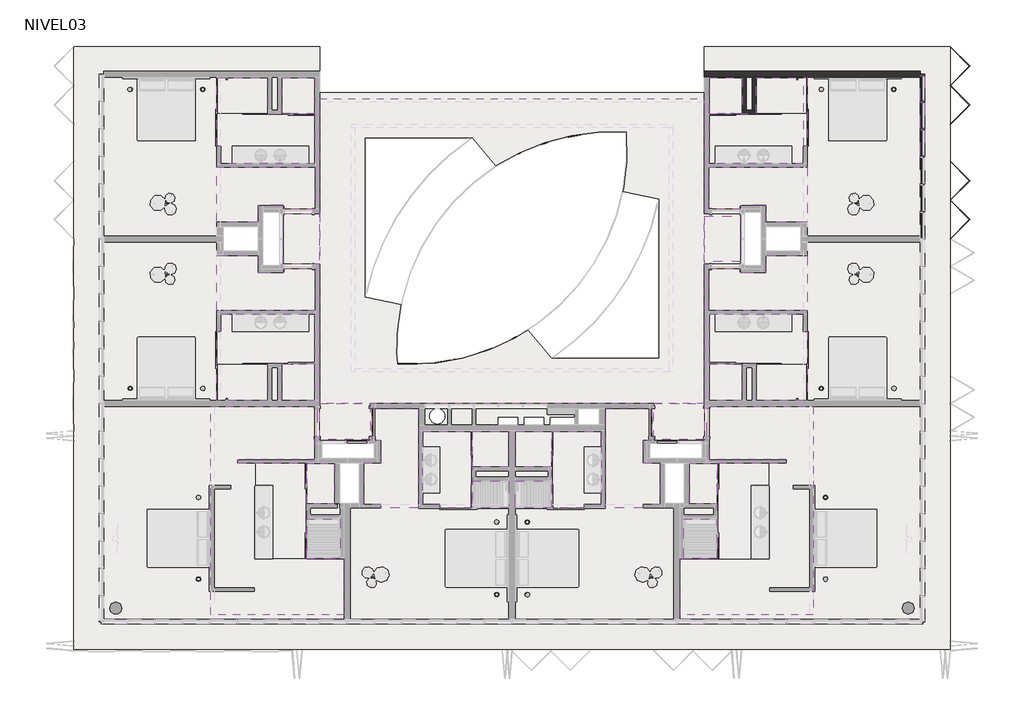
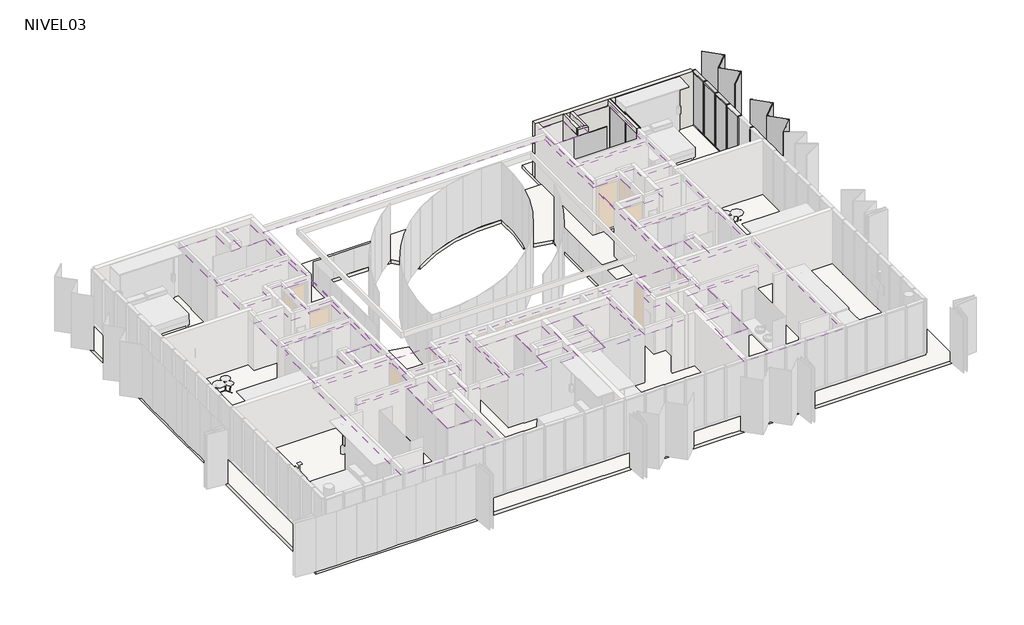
# One storey, part 7 of 8: 31 coverings, 17 slabs, 15 members, 8 plates, 8 walls.
"""IFC4 building model written with IfcOpenShell, lengths in millimetres."""

from ifc_helpers import new_model, si_unit, point, frame, frame_2d, origin, place, context, project, spatial, polyline, circle_curve, trimmed, segment, composite_curve, outline, extrude, faceted_brep, transform, mapped, element, save
from components import rectangular_mullion_50_x_150mm_8dc60d6a, rectangular_mullion_50_x_150mm_324a6438, rectangular_mullion_50_x_150mm_33c2bde1, rectangular_mullion_50_x_150mm_da4cfd0d, folding_hd_folding_hd_45_e61f1cbf, panel_corredera_cr_panel_corredera_0b5135b5, system_panel_cr_shower_c0953742, system_panel_cr_shower_d0c7b907, system_panel_glazed_6ccc6dc1, system_panel_glazed_38744f95

model = new_model("IFC4")

# Units and contexts
model_context = context("Model", 3, world=origin())
ifc_project = project(units=[si_unit("LENGTHUNIT", "METRE", prefix="MILLI")], contexts=[model_context])

# Site, building, storey
site = spatial("IfcSite", under=ifc_project)
building = spatial("IfcBuilding", under=site)
storey = spatial("IfcBuildingStorey", under=building, Name="NIVEL03", Elevation=5220.0)

# Coverings
placement = place(None, origin())
element("IfcCovering", 1, ObjectType="CI_VOLCANITA-ST", at=placement, inside=storey, context=model_context, shape_type="SweptSolid", body=[
    extrude(outline(polyline([(-16848.5934748, 10423.9139241), (-15183.5934748, 10423.9139241), (-15183.5934748, 9233.9139241), (-13643.5934748, 9233.9139241), (-13643.5934748, 7603.9139241), (-16728.5934748, 7603.9139241), (-16728.5934748, 8173.9139241), (-16848.5934748, 8173.9139241), (-16848.5934748, 10423.9139241)])), frame((0.0, 0.0, 7470.0), z_axis=(0.0, 0.0, 1.0), x_axis=(1.0, 0.0, 0.0)), (0.0, 0.0, 1.0), 55.0),
])
element("IfcCovering", 2, ObjectType="CI_VOLCANITA-RH", at=placement, inside=storey, context=model_context, shape_type="SweptSolid", body=[
    extrude(outline(polyline([(-14723.5934748, 10423.9139241), (-13643.5934748, 10423.9139241), (-13643.5934748, 9233.9139241), (-14723.5934748, 9233.9139241), (-14723.5934748, 10423.9139241)])), frame((0.0, 0.0, 7470.0), z_axis=(0.0, 0.0, 1.0), x_axis=(1.0, 0.0, 0.0)), (0.0, 0.0, 1.0), 55.0),
])
element("IfcCovering", 3, ObjectType="CI_VOLCANITA-ST", at=placement, inside=storey, context=model_context, shape_type="SweptSolid", body=[
    extrude(outline(polyline([(2686.4065252, -7185.2015033), (-1683.5934748, -7185.2015033), (-1683.5934748, -5336.0862189), (-453.5934748, -5336.0862189), (-453.5934748, -2216.0860759), (1806.4065252, -2216.0860759), (1806.4065252, -2098.0860759), (-723.5934748, -2098.0860759), (-723.5934748, -1341.0860759), (-798.5934748, -1341.0860759), (-798.5934748, -426.0860759), (-723.5934748, -426.0860759), (-723.5934748, -366.0860759), (2686.4065252, -366.0860759), (2686.4065252, -7185.2015033)])), frame((0.0, 0.0, 7470.0), z_axis=(0.0, 0.0, 1.0), x_axis=(1.0, 0.0, 0.0)), (0.0, 0.0, 1.0), 55.0),
])
element("IfcCovering", 4, ObjectType="CI_VOLCANITA-RH", at=placement, inside=storey, context=model_context, shape_type="SweptSolid", body=[
    extrude(outline(polyline([(-1373.5934748, -3556.0862189), (-1373.5934748, -2226.0860759), (-453.5434748, -2226.0860759), (-453.5434748, -3556.0862189), (-1373.5934748, -3556.0862189)])), frame((0.0, 0.0, 7470.0), z_axis=(0.0, 0.0, 1.0), x_axis=(1.0, 0.0, 0.0)), (0.0, 0.0, 1.0), 55.0),
])
element("IfcCovering", 5, ObjectType="CI_VOLCANITA-RH", at=placement, inside=storey, context=model_context, shape_type="SweptSolid", body=[
    extrude(outline(polyline([(-1553.5934748, -4036.0862189), (-453.5434748, -4036.0862189), (-453.5434748, -5336.1362189), (-1553.5934748, -5336.1362189), (-1553.5934748, -4036.0862189)])), frame((0.0, 0.0, 7470.0), z_axis=(0.0, 0.0, 1.0), x_axis=(1.0, 0.0, 0.0)), (0.0, 0.0, 1.0), 55.0),
])
element("IfcCovering", 6, ObjectType="CI_VOLCANITA-ST", at=placement, inside=storey, context=model_context, shape_type="SweptSolid", body=[
    extrude(outline(polyline([(-17053.5934748, -7185.2015033), (-17053.5934748, -366.0860759), (-13643.5934748, -366.0860759), (-13643.5934748, -426.0860759), (-13568.5934748, -426.0860759), (-13568.5934748, -1341.0860759), (-13643.5934748, -1341.0860759), (-13643.5934748, -2098.0860759), (-16173.5934748, -2098.0860759), (-16173.5934748, -2216.0860759), (-13913.5934748, -2216.0860759), (-13913.5934748, -5336.0862189), (-12683.5934748, -5336.0862189), (-12683.5934748, -7185.2015033), (-17053.5934748, -7185.2015033)])), frame((0.0, 0.0, 7470.0), z_axis=(0.0, 0.0, 1.0), x_axis=(1.0, 0.0, 0.0)), (0.0, 0.0, 1.0), 55.0),
])
element("IfcCovering", 7, ObjectType="CI_VOLCANITA-RH", at=placement, inside=storey, context=model_context, shape_type="SweptSolid", body=[
    extrude(outline(polyline([(-12993.5934748, -3556.0862189), (-13913.6434748, -3556.0862189), (-13913.6434748, -2226.0860759), (-12993.5934748, -2226.0860759), (-12993.5934748, -3556.0862189)])), frame((0.0, 0.0, 7470.0), z_axis=(0.0, 0.0, 1.0), x_axis=(1.0, 0.0, 0.0)), (0.0, 0.0, 1.0), 55.0),
])
element("IfcCovering", 8, ObjectType="CI_VOLCANITA-RH", at=placement, inside=storey, context=model_context, shape_type="SweptSolid", body=[
    extrude(outline(polyline([(-12813.5934748, -4036.0862189), (-12813.5934748, -5336.1362189), (-13913.6434748, -5336.1362189), (-13913.6434748, -4036.0862189), (-12813.5934748, -4036.0862189)])), frame((0.0, 0.0, 7470.0), z_axis=(0.0, 0.0, 1.0), x_axis=(1.0, 0.0, 0.0)), (0.0, 0.0, 1.0), 55.0),
])
element("IfcCovering", 9, ObjectType="CI_VOLCANITA-ST", at=placement, inside=storey, context=model_context, shape_type="SweptSolid", body=[
    extrude(outline(polyline([(-5883.5921504, -1176.0860759), (-4253.5934748, -1176.0860759), (-4253.5934748, -3586.0862189), (-4823.5934748, -3586.0862189), (-4823.5934748, -3686.0862189), (-5883.5921504, -3686.0862189), (-5883.5921504, -1176.0860759)])), frame((0.0, 0.0, 7470.0), z_axis=(0.0, 0.0, 1.0), x_axis=(1.0, 0.0, 0.0)), (0.0, 0.0, 1.0), 55.0),
])
element("IfcCovering", 10, ObjectType="CI_VOLCANITA-RH", at=placement, inside=storey, context=model_context, shape_type="SweptSolid", body=[
    extrude(outline(polyline([(-5883.5921504, -2346.0860759), (-7073.5934748, -2346.0860759), (-7073.5934748, -1176.0860759), (-5883.5921504, -1176.0860759), (-5883.5921504, -2346.0860759)])), frame((0.0, 0.0, 7470.0), z_axis=(0.0, 0.0, 1.0), x_axis=(1.0, 0.0, 0.0)), (0.0, 0.0, 1.0), 55.0),
])
element("IfcCovering", 11, ObjectType="CI_VOLCANITA-RH", at=placement, inside=storey, context=model_context, shape_type="SweptSolid", body=[
    extrude(outline(polyline([(-7073.5934748, -3686.0862189), (-7073.5934748, -2806.0860759), (-5883.5921504, -2806.0860759), (-5883.5921504, -3686.0862189), (-7073.5934748, -3686.0862189)])), frame((0.0, 0.0, 7470.0), z_axis=(0.0, 0.0, 1.0), x_axis=(1.0, 0.0, 0.0)), (0.0, 0.0, 1.0), 55.0),
])
element("IfcCovering", 12, ObjectType="CI_VOLCANITA-ST", at=placement, inside=storey, context=model_context, shape_type="SweptSolid", body=[
    extrude(outline(polyline([(-8483.5947993, -1176.0860759), (-8483.5947993, -3686.0862189), (-9543.5934748, -3686.0862189), (-9543.5934748, -3586.0862189), (-10113.5934748, -3586.0862189), (-10113.5934748, -1176.0860759), (-8483.5947993, -1176.0860759)])), frame((0.0, 0.0, 7470.0), z_axis=(0.0, 0.0, 1.0), x_axis=(1.0, 0.0, 0.0)), (0.0, 0.0, 1.0), 55.0),
])
element("IfcCovering", 13, ObjectType="CI_VOLCANITA-RH", at=placement, inside=storey, context=model_context, shape_type="SweptSolid", body=[
    extrude(outline(polyline([(-8483.5947993, -2346.0860759), (-8483.5947993, -1176.0860759), (-7293.5934748, -1176.0860759), (-7293.5934748, -2346.0860759), (-8483.5947993, -2346.0860759)])), frame((0.0, 0.0, 7470.0), z_axis=(0.0, 0.0, 1.0), x_axis=(1.0, 0.0, 0.0)), (0.0, 0.0, 1.0), 55.0),
])
element("IfcCovering", 14, ObjectType="CI_VOLCANITA-RH", at=placement, inside=storey, context=model_context, shape_type="Brep", body=[
    faceted_brep([(-7293.5934748, -3686.0862189, 7525.0), (-7293.5934748, -3566.0862189, 7525.0), (-7293.5934748, -2806.0860759, 7525.0), (-8483.5947993, -2806.0860759, 7525.0), (-8483.5947993, -3566.0862189, 7525.0), (-8483.5947993, -3686.0862189, 7525.0), (-7293.5934748, -3686.0862189, 7470.0), (-8483.5947993, -3686.0862189, 7470.0), (-8483.5947993, -3566.0862189, 7470.0), (-8483.5947993, -2806.0860759, 7470.0), (-7293.5934748, -2806.0860759, 7470.0), (-7293.5934748, -3566.0862189, 7470.0)], [[[0, 1, 2, 3, 4, 5]], [[6, 7, 8, 9, 10, 11]], [[2, 1, 0, 6, 11, 10]], [[3, 2, 10, 9]], [[5, 4, 3, 9, 8, 7]], [[0, 5, 7, 6]]]),
])
element("IfcCovering", 15, ObjectType="CI_VOLCANITA-ST", at=placement, inside=storey, context=model_context, shape_type="Brep", body=[
    faceted_brep([(-13483.5934748, 9733.9139241, 7525.0), (-13483.5934748, 9623.9139241, 7525.0), (-13483.5934748, -266.0860759, 7525.0), (-883.5934748, -266.0860759, 7525.0), (-883.5934748, 9623.9139241, 7525.0), (-883.5934748, 9733.9139241, 7525.0), (-12333.5934748, 8783.9139241, 7525.0), (-2033.5934748, 8783.9139241, 7525.0), (-2033.5934748, 883.9139241, 7525.0), (-12333.5934748, 883.9139241, 7525.0), (-13483.5934748, 9733.9139241, 7470.0), (-883.5934748, 9733.9139241, 7470.0), (-883.5934748, -266.0860759, 7470.0), (-13483.5934748, -266.0860759, 7470.0), (-12333.5934748, 8783.9139241, 7470.0), (-12333.5934748, 883.9139241, 7470.0), (-2033.5934748, 883.9139241, 7470.0), (-2033.5934748, 8783.9139241, 7470.0)], [[[0, 1, 2, 3, 4, 5], [6, 7, 8, 9]], [[10, 11, 12, 13], [14, 15, 16, 17]], [[7, 6, 14, 17]], [[8, 7, 17, 16]], [[9, 8, 16, 15]], [[6, 9, 15, 14]], [[2, 1, 0, 10, 13]], [[3, 2, 13, 12]], [[5, 4, 3, 12, 11]], [[0, 5, 11, 10]]]),
])
element("IfcCovering", 16, ObjectType="CI_HUNTER DOUGLAS", at=placement, inside=storey, context=model_context, shape_type="SweptSolid", body=[
    extrude(outline(polyline([(306.4065252, 5883.9139241), (306.4065252, 4383.9139241), (-883.5934748, 4383.9139241), (-883.5934748, 5883.9139241), (306.4065252, 5883.9139241)])), frame((0.0, 0.0, 7520.0), z_axis=(0.0, 0.0, 1.0), x_axis=(1.0, 0.0, 0.0)), (0.0, 0.0, 1.0), 55.0),
])
element("IfcCovering", 17, ObjectType="CI_HUNTER DOUGLAS", at=placement, inside=storey, context=model_context, shape_type="SweptSolid", body=[
    extrude(outline(polyline([(-883.5934748, -266.0860759), (-883.5934748, -1438.0860759), (-2533.5934748, -1438.0860759), (-2533.5934748, -266.0860759), (-883.5934748, -266.0860759)])), frame((0.0, 0.0, 7520.0), z_axis=(0.0, 0.0, 1.0), x_axis=(1.0, 0.0, 0.0)), (0.0, 0.0, 1.0), 55.0),
])
element("IfcCovering", 18, ObjectType="CI_HUNTER DOUGLAS", at=placement, inside=storey, context=model_context, shape_type="SweptSolid", body=[
    extrude(outline(polyline([(-14673.5934748, 5958.9139241), (-13483.5934748, 5958.9139241), (-13483.5934748, 4308.9139241), (-14673.5934748, 4308.9139241), (-14673.5934748, 5958.9139241)])), frame((0.0, 0.0, 7520.0), z_axis=(0.0, 0.0, 1.0), x_axis=(1.0, 0.0, 0.0)), (0.0, 0.0, 1.0), 55.0),
])
element("IfcCovering", 19, ObjectType="CI_HUNTER DOUGLAS", at=placement, inside=storey, context=model_context, shape_type="SweptSolid", body=[
    extrude(outline(polyline([(-11833.5934748, -266.0860759), (-11833.5934748, -1438.0860759), (-13483.5934748, -1438.0860759), (-13483.5934748, -266.0860759), (-11833.5934748, -266.0860759)])), frame((0.0, 0.0, 7520.0), z_axis=(0.0, 0.0, 1.0), x_axis=(1.0, 0.0, 0.0)), (0.0, 0.0, 1.0), 55.0),
])
element("IfcCovering", 20, ObjectType="CI_VOLCANITA-ST", at=placement, inside=storey, context=model_context, shape_type="SweptSolid", body=[
    extrude(outline(polyline([(-16848.5934748, 5683.9139241), (-16848.5934748, 7483.9139241), (-13633.5934748, 7483.9139241), (-13633.5934748, 6108.9139241), (-14673.5934748, 6108.9139241), (-14673.5934748, 6233.9139241), (-15493.5934748, 6233.9139241), (-15493.5934748, 5683.9139241), (-16848.5934748, 5683.9139241)])), frame((0.0, 0.0, 7470.0), z_axis=(0.0, 0.0, 1.0), x_axis=(1.0, 0.0, 0.0)), (0.0, 0.0, 1.0), 55.0),
])
element("IfcCovering", 21, ObjectType="CI_VOLCANITA-ST", at=placement, inside=storey, context=model_context, shape_type="SweptSolid", body=[
    extrude(outline(polyline([(-2608.5934748, -416.0860759), (-2608.5934748, -1466.0860759), (-2883.5934748, -1466.0860759), (-2883.5934748, -2216.0860759), (-2333.5934748, -2216.0860759), (-2333.5934748, -3571.0862189), (-2883.5934748, -3571.0862189), (-2883.5934748, -3686.0862189), (-4133.5934748, -3686.0862189), (-4133.5934748, -1066.0860759), (-4133.5934748, -416.0860759), (-2608.5934748, -416.0860759)])), frame((0.0, 0.0, 7470.0), z_axis=(0.0, 0.0, 1.0), x_axis=(1.0, 0.0, 0.0)), (0.0, 0.0, 1.0), 55.0),
])
element("IfcCovering", 22, ObjectType="CI_VOLCANITA-ST", at=placement, inside=storey, context=model_context, shape_type="SweptSolid", body=[
    extrude(outline(polyline([(-10233.5934748, -416.0860759), (-10233.5934748, -1066.0860759), (-10233.5934748, -3686.0862189), (-11483.5934748, -3686.0862189), (-11483.5934748, -3571.0862189), (-12033.5934748, -3571.0862189), (-12033.5934748, -2216.0860759), (-11483.5934748, -2216.0860759), (-11483.5934748, -1466.0860759), (-11758.5934748, -1466.0860759), (-11758.5934748, -416.0860759), (-10233.5934748, -416.0860759)])), frame((0.0, 0.0, 7470.0), z_axis=(0.0, 0.0, 1.0), x_axis=(1.0, 0.0, 0.0)), (0.0, 0.0, 1.0), 55.0),
])
element("IfcCovering", 23, ObjectType="CI_VOLCANITA-ST", at=placement, inside=storey, context=model_context, shape_type="Brep", body=[
    faceted_brep([(2481.4065252, 10423.9139241, 7525.0), (2371.4065252, 10423.9139241, 7525.0), (816.4065252, 10423.9139241, 7525.0), (816.4065252, 9233.9139241, 7525.0), (-723.5934748, 9233.9139241, 7525.0), (-723.5934748, 7603.9139241, 7525.0), (2361.4065252, 7603.9139241, 7525.0), (2361.4065252, 8173.9139241, 7525.0), (2371.4065252, 8173.9139241, 7525.0), (2481.4065252, 8173.9139241, 7525.0), (2481.4065252, 10423.9139241, 7470.0), (2481.4065252, 8173.9139241, 7470.0), (2361.4065252, 8173.9139241, 7470.0), (2361.4065252, 7603.9139241, 7470.0), (-723.5934748, 7603.9139241, 7470.0), (-723.5934748, 9233.9139241, 7470.0), (816.4065252, 9233.9139241, 7470.0), (816.4065252, 10423.9139241, 7470.0), (2371.4065252, 10423.9139241, 7470.0)], [[[0, 1, 2, 3, 4, 5, 6, 7, 8, 9]], [[10, 11, 12, 13, 14, 15, 16, 17, 18]], [[2, 1, 0, 10, 18, 17]], [[3, 2, 17, 16]], [[4, 3, 16, 15]], [[5, 4, 15, 14]], [[6, 5, 14, 13]], [[7, 6, 13, 12]], [[9, 8, 7, 12, 11]], [[0, 9, 11, 10]]]),
])
element("IfcCovering", 24, ObjectType="CI_VOLCANITA-RH", at=placement, inside=storey, context=model_context, shape_type="SweptSolid", body=[
    extrude(outline(polyline([(356.4065252, 10423.9139241), (356.4065252, 9233.9139241), (-723.5934748, 9233.9139241), (-723.5934748, 10423.9139241), (356.4065252, 10423.9139241)])), frame((0.0, 0.0, 7470.0), z_axis=(0.0, 0.0, 1.0), x_axis=(1.0, 0.0, 0.0)), (0.0, 0.0, 1.0), 55.0),
])
element("IfcCovering", 25, ObjectType="CI_VOLCANITA-ST", at=placement, inside=storey, context=model_context, shape_type="Brep", body=[
    faceted_brep([(-16848.5934748, -156.0860759, 7525.0), (-16738.5934748, -156.0860759, 7525.0), (-15183.5934748, -156.0860759, 7525.0), (-15183.5934748, 1033.9139241, 7525.0), (-13643.5934748, 1033.9139241, 7525.0), (-13643.5934748, 2663.9139241, 7525.0), (-16728.5934748, 2663.9139241, 7525.0), (-16728.5934748, 2093.9139241, 7525.0), (-16738.5934748, 2093.9139241, 7525.0), (-16848.5934748, 2093.9139241, 7525.0), (-16848.5934748, -156.0860759, 7470.0), (-16848.5934748, 2093.9139241, 7470.0), (-16728.5934748, 2093.9139241, 7470.0), (-16728.5934748, 2663.9139241, 7470.0), (-13643.5934748, 2663.9139241, 7470.0), (-13643.5934748, 1033.9139241, 7470.0), (-15183.5934748, 1033.9139241, 7470.0), (-15183.5934748, -156.0860759, 7470.0), (-16738.5934748, -156.0860759, 7470.0)], [[[0, 1, 2, 3, 4, 5, 6, 7, 8, 9]], [[10, 11, 12, 13, 14, 15, 16, 17, 18]], [[2, 1, 0, 10, 18, 17]], [[3, 2, 17, 16]], [[4, 3, 16, 15]], [[5, 4, 15, 14]], [[6, 5, 14, 13]], [[7, 6, 13, 12]], [[9, 8, 7, 12, 11]], [[0, 9, 11, 10]]]),
])
element("IfcCovering", 26, ObjectType="CI_VOLCANITA-RH", at=placement, inside=storey, context=model_context, shape_type="SweptSolid", body=[
    extrude(outline(polyline([(-14723.5934748, -156.0860759), (-14723.5934748, 1033.9139241), (-13643.5934748, 1033.9139241), (-13643.5934748, -156.0860759), (-14723.5934748, -156.0860759)])), frame((0.0, 0.0, 7470.0), z_axis=(0.0, 0.0, 1.0), x_axis=(1.0, 0.0, 0.0)), (0.0, 0.0, 1.0), 55.0),
])
element("IfcCovering", 27, ObjectType="CI_VOLCANITA-ST", at=placement, inside=storey, context=model_context, shape_type="Brep", body=[
    faceted_brep([(2481.4065252, -156.0860759, 7525.0), (2481.4065252, 2093.9139241, 7525.0), (2371.4065252, 2093.9139241, 7525.0), (2361.4065252, 2093.9139241, 7525.0), (2361.4065252, 2663.9139241, 7525.0), (-723.5934748, 2663.9139241, 7525.0), (-723.5934748, 1033.9139241, 7525.0), (816.4065252, 1033.9139241, 7525.0), (816.4065252, -156.0860759, 7525.0), (2371.4065252, -156.0860759, 7525.0), (2481.4065252, -156.0860759, 7470.0), (2371.4065252, -156.0860759, 7470.0), (816.4065252, -156.0860759, 7470.0), (816.4065252, 1033.9139241, 7470.0), (-723.5934748, 1033.9139241, 7470.0), (-723.5934748, 2663.9139241, 7470.0), (2361.4065252, 2663.9139241, 7470.0), (2361.4065252, 2093.9139241, 7470.0), (2481.4065252, 2093.9139241, 7470.0)], [[[0, 1, 2, 3, 4, 5, 6, 7, 8, 9]], [[10, 11, 12, 13, 14, 15, 16, 17, 18]], [[0, 9, 8, 12, 11, 10]], [[8, 7, 13, 12]], [[7, 6, 14, 13]], [[6, 5, 15, 14]], [[5, 4, 16, 15]], [[4, 3, 17, 16]], [[3, 2, 1, 18, 17]], [[1, 0, 10, 18]]]),
])
element("IfcCovering", 28, ObjectType="CI_VOLCANITA-RH", at=placement, inside=storey, context=model_context, shape_type="SweptSolid", body=[
    extrude(outline(polyline([(356.4065252, -156.0860759), (-723.5934748, -156.0860759), (-723.5934748, 1033.9139241), (356.4065252, 1033.9139241), (356.4065252, -156.0860759)])), frame((0.0, 0.0, 7470.0), z_axis=(0.0, 0.0, 1.0), x_axis=(1.0, 0.0, 0.0)), (0.0, 0.0, 1.0), 55.0),
])
element("IfcCovering", 29, ObjectType="CI_VOLCANITA-ST", at=placement, inside=storey, context=model_context, shape_type="SweptSolid", body=[
    extrude(outline(polyline([(2481.4065252, 5683.9139241), (1126.4065252, 5683.9139241), (1126.4065252, 6233.9139241), (306.4065252, 6233.9139241), (306.4065252, 6108.9139241), (-733.5934748, 6108.9139241), (-733.5934748, 7483.9139241), (2481.4065252, 7483.9139241), (2481.4065252, 5683.9139241)])), frame((0.0, 0.0, 7470.0), z_axis=(0.0, 0.0, 1.0), x_axis=(1.0, 0.0, 0.0)), (0.0, 0.0, 1.0), 55.0),
])
element("IfcCovering", 30, ObjectType="CI_VOLCANITA-ST", at=placement, inside=storey, context=model_context, shape_type="SweptSolid", body=[
    extrude(outline(polyline([(-16848.5934748, 4583.9139241), (-15493.5934748, 4583.9139241), (-15493.5934748, 4033.9139241), (-14673.5934748, 4033.9139241), (-14673.5934748, 4158.9139241), (-13633.5934748, 4158.9139241), (-13633.5934748, 2783.9139241), (-16848.5934748, 2783.9139241), (-16848.5934748, 4583.9139241)])), frame((0.0, 0.0, 7470.0), z_axis=(0.0, 0.0, 1.0), x_axis=(1.0, 0.0, 0.0)), (0.0, 0.0, 1.0), 55.0),
])
element("IfcCovering", 31, ObjectType="CI_VOLCANITA-ST", at=placement, inside=storey, context=model_context, shape_type="SweptSolid", body=[
    extrude(outline(polyline([(2481.4065252, 4583.9139241), (2481.4065252, 2783.9139241), (-733.5934748, 2783.9139241), (-733.5934748, 4158.9139241), (306.4065252, 4158.9139241), (306.4065252, 4033.9139241), (1126.4065252, 4033.9139241), (1126.4065252, 4583.9139241), (2481.4065252, 4583.9139241)])), frame((0.0, 0.0, 7470.0), z_axis=(0.0, 0.0, 1.0), x_axis=(1.0, 0.0, 0.0)), (0.0, 0.0, 1.0), 55.0),
])

# Members
rectangular_mullion_50_x_150mm_shape = rectangular_mullion_50_x_150mm_8dc60d6a(model_context)
element("IfcMember", 32, ObjectType="Rectangular Mullion : 50 x 150mm", at=placement, inside=storey, context=model_context, shape_type="MappedRepresentation", body=[
    mapped(rectangular_mullion_50_x_150mm_shape, transform((6266.4065252, 9658.9139237, 7770.0), x_axis=(0.0, 0.0, 1.0), y_axis=(-1.0, 0.0, 0.0), z_axis=(0.0, -1.0, 0.0))),
])
rectangular_mullion_50_x_150mm_2_shape = rectangular_mullion_50_x_150mm_324a6438(model_context)
element("IfcMember", 33, ObjectType="Rectangular Mullion : 50 x 150mm", at=placement, inside=storey, context=model_context, shape_type="MappedRepresentation", body=[
    mapped(rectangular_mullion_50_x_150mm_2_shape, transform((6266.4065252, 8758.9139237, 7770.0), x_axis=(0.0, 0.0, 1.0), y_axis=(-1.0, 0.0, 0.0), z_axis=(0.0, -1.0, 0.0))),
])
element("IfcMember", 34, ObjectType="Rectangular Mullion : 50 x 150mm", at=placement, inside=storey, context=model_context, shape_type="MappedRepresentation", body=[
    mapped(rectangular_mullion_50_x_150mm_2_shape, transform((6266.4065252, 7858.9139237, 7770.0), x_axis=(0.0, 0.0, 1.0), y_axis=(-1.0, 0.0, 0.0), z_axis=(0.0, -1.0, 0.0))),
])
element("IfcMember", 35, ObjectType="Rectangular Mullion : 50 x 150mm", at=placement, inside=storey, context=model_context, shape_type="MappedRepresentation", body=[
    mapped(rectangular_mullion_50_x_150mm_shape, transform((6266.4065252, 10483.9139241, 5200.0), x_axis=(0.0, 0.0, -1.0), y_axis=(-1.0, 0.0, 0.0), z_axis=(0.0, 1.0, 0.0))),
])
element("IfcMember", 36, ObjectType="Rectangular Mullion : 50 x 150mm", at=placement, inside=storey, context=model_context, shape_type="MappedRepresentation", body=[
    mapped(rectangular_mullion_50_x_150mm_2_shape, transform((6266.4065252, 9608.9139237, 5200.0), x_axis=(0.0, 0.0, -1.0), y_axis=(-1.0, 0.0, 0.0), z_axis=(0.0, 1.0, 0.0))),
])
element("IfcMember", 37, ObjectType="Rectangular Mullion : 50 x 150mm", at=placement, inside=storey, context=model_context, shape_type="MappedRepresentation", body=[
    mapped(rectangular_mullion_50_x_150mm_2_shape, transform((6266.4065252, 8708.9139237, 5200.0), x_axis=(0.0, 0.0, -1.0), y_axis=(-1.0, 0.0, 0.0), z_axis=(0.0, 1.0, 0.0))),
])
element("IfcMember", 38, ObjectType="Rectangular Mullion : 50 x 150mm", at=placement, inside=storey, context=model_context, shape_type="MappedRepresentation", body=[
    mapped(rectangular_mullion_50_x_150mm_2_shape, transform((6266.4065252, 7808.9139237, 5200.0), x_axis=(0.0, 0.0, -1.0), y_axis=(-1.0, 0.0, 0.0), z_axis=(0.0, 1.0, 0.0))),
])
element("IfcMember", 39, ObjectType="Rectangular Mullion : 50 x 150mm", at=placement, inside=storey, context=model_context, shape_type="MappedRepresentation", body=[
    mapped(rectangular_mullion_50_x_150mm_2_shape, transform((6266.4065252, 6908.9139237, 5200.0), x_axis=(0.0, 0.0, -1.0), y_axis=(-1.0, 0.0, 0.0), z_axis=(0.0, 1.0, 0.0))),
])
element("IfcMember", 40, ObjectType="Rectangular Mullion : 50 x 150mm", at=placement, inside=storey, context=model_context, shape_type="MappedRepresentation", body=[
    mapped(rectangular_mullion_50_x_150mm_2_shape, transform((6266.4065252, 6008.9139237, 5200.0), x_axis=(0.0, 0.0, -1.0), y_axis=(-1.0, 0.0, 0.0), z_axis=(0.0, 1.0, 0.0))),
])
rectangular_mullion_50_x_150mm_3_shape = rectangular_mullion_50_x_150mm_33c2bde1(model_context)
element("IfcMember", 41, ObjectType="Rectangular Mullion : 50 x 150mm", at=placement, inside=storey, context=model_context, shape_type="MappedRepresentation", body=[
    mapped(rectangular_mullion_50_x_150mm_3_shape, transform((6266.4065252, 9633.9139237, 5200.0), x_axis=(0.0, -1.0, 0.0), y_axis=(-1.0, 0.0, 0.0), z_axis=(0.0, 0.0, -1.0))),
])
element("IfcMember", 42, ObjectType="Rectangular Mullion : 50 x 150mm", at=placement, inside=storey, context=model_context, shape_type="MappedRepresentation", body=[
    mapped(rectangular_mullion_50_x_150mm_3_shape, transform((6266.4065252, 8733.9139237, 5200.0), x_axis=(0.0, -1.0, 0.0), y_axis=(-1.0, 0.0, 0.0), z_axis=(0.0, 0.0, -1.0))),
])
element("IfcMember", 43, ObjectType="Rectangular Mullion : 50 x 150mm", at=placement, inside=storey, context=model_context, shape_type="MappedRepresentation", body=[
    mapped(rectangular_mullion_50_x_150mm_3_shape, transform((6266.4065252, 7833.9139237, 5200.0), x_axis=(0.0, -1.0, 0.0), y_axis=(-1.0, 0.0, 0.0), z_axis=(0.0, 0.0, -1.0))),
])
element("IfcMember", 44, ObjectType="Rectangular Mullion : 50 x 150mm", at=placement, inside=storey, context=model_context, shape_type="MappedRepresentation", body=[
    mapped(rectangular_mullion_50_x_150mm_3_shape, transform((6266.4065252, 6933.9139237, 5200.0), x_axis=(0.0, -1.0, 0.0), y_axis=(-1.0, 0.0, 0.0), z_axis=(0.0, 0.0, -1.0))),
])
element("IfcMember", 45, ObjectType="Rectangular Mullion : 50 x 150mm", at=placement, inside=storey, context=model_context, shape_type="MappedRepresentation", body=[
    mapped(rectangular_mullion_50_x_150mm_3_shape, transform((6266.4065252, 6033.9139237, 5200.0), x_axis=(0.0, -1.0, 0.0), y_axis=(-1.0, 0.0, 0.0), z_axis=(0.0, 0.0, -1.0))),
])
rectangular_mullion_50_x_150mm_4_shape = rectangular_mullion_50_x_150mm_da4cfd0d(model_context)
element("IfcMember", 46, ObjectType="Rectangular Mullion : 50 x 150mm", at=placement, inside=storey, context=model_context, shape_type="MappedRepresentation", body=[
    mapped(rectangular_mullion_50_x_150mm_4_shape, transform((6266.4065252, 10533.9139241, 7770.0), x_axis=(0.0, 1.0, 0.0), y_axis=(-1.0, 0.0, 0.0), z_axis=(0.0, 0.0, 1.0))),
])

# Plates
folding_hd_folding_hd_45_shape = folding_hd_folding_hd_45_e61f1cbf(model_context)
element("IfcPlate", 47, ObjectType="FOLDING HD : FOLDING HD 45", at=placement, inside=storey, context=model_context, shape_type="MappedRepresentation", body=[
    mapped(folding_hd_folding_hd_45_shape, transform((7166.4065252, 8283.9139241, 5200.0), x_axis=(0.0, -1.0, 0.0), y_axis=(1.0, 0.0, 0.0), z_axis=(0.0, 0.0, 1.0))),
])
panel_corredera_cr_panel_corredera_shape = panel_corredera_cr_panel_corredera_0b5135b5(model_context)
element("IfcPlate", 48, ObjectType="PANEL CORREDERA : CR_PANEL CORREDERA", at=placement, inside=storey, context=model_context, shape_type="MappedRepresentation", body=[
    mapped(panel_corredera_cr_panel_corredera_shape, transform((2481.4065252, 8703.9139241, 5220.0), x_axis=(0.0, 1.0, 0.0), y_axis=(-1.0, 0.0, 0.0), z_axis=(0.0, 0.0, 1.0))),
])
system_panel_cr_shower_shape = system_panel_cr_shower_c0953742(model_context)
element("IfcPlate", 49, ObjectType="System Panel : CR-SHOWER", at=placement, inside=storey, context=model_context, shape_type="MappedRepresentation", body=[
    mapped(system_panel_cr_shower_shape, transform((811.7398585, 9233.9139241, 5220.0), x_axis=(-1.0, 0.0, 0.0), y_axis=(0.0, -1.0, 0.0), z_axis=(0.0, 0.0, 1.0))),
])
system_panel_cr_shower_2_shape = system_panel_cr_shower_d0c7b907(model_context)
element("IfcPlate", 50, ObjectType="System Panel : CR-SHOWER", at=placement, inside=storey, context=model_context, shape_type="MappedRepresentation", body=[
    mapped(system_panel_cr_shower_2_shape, transform((2481.4065252, 9833.9139241, 5220.0), x_axis=(0.0, 1.0, 0.0), y_axis=(-1.0, 0.0, 0.0), z_axis=(0.0, 0.0, 1.0))),
])
system_panel_glazed_shape = system_panel_glazed_6ccc6dc1(model_context)
element("IfcPlate", 51, ObjectType="System Panel : Glazed", at=placement, inside=storey, context=model_context, shape_type="MappedRepresentation", body=[
    mapped(system_panel_glazed_shape, transform((6266.4065252, 9183.9139237, 5250.0), x_axis=(0.0, -1.0, 0.0), y_axis=(1.0, 0.0, 0.0), z_axis=(0.0, 0.0, 1.0))),
])
element("IfcPlate", 52, ObjectType="System Panel : Glazed", at=placement, inside=storey, context=model_context, shape_type="MappedRepresentation", body=[
    mapped(system_panel_glazed_shape, transform((6266.4065252, 8283.9139237, 5250.0), x_axis=(0.0, -1.0, 0.0), y_axis=(1.0, 0.0, 0.0), z_axis=(0.0, 0.0, 1.0))),
])
element("IfcPlate", 53, ObjectType="System Panel : Glazed", at=placement, inside=storey, context=model_context, shape_type="MappedRepresentation", body=[
    mapped(system_panel_glazed_shape, transform((6266.4065252, 7383.9139237, 5250.0), x_axis=(0.0, -1.0, 0.0), y_axis=(1.0, 0.0, 0.0), z_axis=(0.0, 0.0, 1.0))),
])
system_panel_glazed_2_shape = system_panel_glazed_38744f95(model_context)
element("IfcPlate", 54, ObjectType="System Panel : Glazed", at=placement, inside=storey, context=model_context, shape_type="MappedRepresentation", body=[
    mapped(system_panel_glazed_2_shape, transform((6266.4065252, 10071.4139239, 5250.0), x_axis=(0.0, -1.0, 0.0), y_axis=(1.0, 0.0, 0.0), z_axis=(0.0, 0.0, 1.0))),
])

# Slabs
element("IfcSlab", 55, ObjectType="PAV-PORCELANATO BAÑOS", at=placement, inside=storey, context=model_context, shape_type="SweptSolid", body=[
    extrude(outline(polyline([(-16848.5934748, 9233.9139241), (-14733.5934748, 9233.9139241), (-14733.5934748, 10433.9139241), (-13633.5934748, 10433.9139241), (-13633.5934748, 7593.9139241), (-16738.5934748, 7593.9139241), (-16738.5934748, 8173.9139241), (-16848.5934748, 8173.9139241), (-16848.5934748, 9233.9139241)])), frame((0.0, 0.0, 5200.0), z_axis=(0.0, 0.0, 1.0), x_axis=(1.0, 0.0, 0.0)), (0.0, 0.0, 1.0), 20.0),
])
element("IfcSlab", 56, ObjectType="PAV-PORCELANATO BAÑOS", at=placement, inside=storey, context=model_context, shape_type="SweptSolid", body=[
    extrude(outline(polyline([(-4243.5934748, -1166.0860759), (-4243.5934748, -3596.0862189), (-4823.5934748, -3596.0862189), (-4823.5934748, -3706.0862189), (-5883.5921504, -3706.0862189), (-5883.5921504, -2366.0860759), (-7083.5934748, -2366.0860759), (-7083.5934748, -1166.0860759), (-4243.5934748, -1166.0860759)])), frame((0.0, 0.0, 5200.0), z_axis=(0.0, 0.0, 1.0), x_axis=(1.0, 0.0, 0.0)), (0.0, 0.0, 1.0), 20.0),
])
element("IfcSlab", 57, ObjectType="PAV-PORCELANATO BAÑOS", at=placement, inside=storey, context=model_context, shape_type="SweptSolid", body=[
    extrude(outline(polyline([(-10123.5934748, -1166.0860759), (-7283.5934748, -1166.0860759), (-7283.5934748, -2366.0860759), (-8483.5947993, -2366.0860759), (-8483.5947993, -3706.0862189), (-9543.5934748, -3706.0862189), (-9543.5934748, -3596.0862189), (-10123.5934748, -3596.0862189), (-10123.5934748, -1166.0860759)])), frame((0.0, 0.0, 5200.0), z_axis=(0.0, 0.0, 1.0), x_axis=(1.0, 0.0, 0.0)), (0.0, 0.0, 1.0), 20.0),
])
element("IfcSlab", 58, ObjectType="PAV-PORCELANATO BAÑOS", at=placement, inside=storey, context=model_context, shape_type="SweptSolid", body=[
    extrude(outline(polyline([(-1383.5934748, -2216.0860759), (1226.4065252, -2216.0860759), (1226.4065252, -5348.5862189), (-453.5934748, -5348.5862189), (-453.5934748, -3596.0862189), (-1383.5934748, -3596.0862189), (-1383.5934748, -2216.0860759)])), frame((0.0, 0.0, 5200.0), z_axis=(0.0, 0.0, 1.0), x_axis=(1.0, 0.0, 0.0)), (0.0, 0.0, 1.0), 20.0),
])
element("IfcSlab", 59, ObjectType="PAV-PORCELANATO BAÑOS", at=placement, inside=storey, context=model_context, shape_type="SweptSolid", body=[
    extrude(outline(polyline([(-12983.5934748, -2216.0860759), (-12983.5934748, -3596.0862189), (-13913.5934748, -3596.0862189), (-13913.5934748, -5348.5862189), (-15593.5934748, -5348.5862189), (-15593.5934748, -2216.0860759), (-12983.5934748, -2216.0860759)])), frame((0.0, 0.0, 5200.0), z_axis=(0.0, 0.0, 1.0), x_axis=(1.0, 0.0, 0.0)), (0.0, 0.0, 1.0), 20.0),
])
element("IfcSlab", 60, ObjectType="PAV-PORCELANATO BAÑOS", at=placement, inside=storey, context=model_context, shape_type="SweptSolid", body=[
    extrude(outline(polyline([(2481.4065252, 9233.9139241), (2481.4065252, 8173.9139241), (2371.4065252, 8173.9139241), (2371.4065252, 7593.9139241), (-733.5934748, 7593.9139241), (-733.5934748, 10433.9139241), (366.4065252, 10433.9139241), (366.4065252, 9233.9139241), (2481.4065252, 9233.9139241)])), frame((0.0, 0.0, 5200.0), z_axis=(0.0, 0.0, 1.0), x_axis=(1.0, 0.0, 0.0)), (0.0, 0.0, 1.0), 20.0),
])
element("IfcSlab", 61, ObjectType="PAV-PORCELANATO BAÑOS", at=placement, inside=storey, context=model_context, shape_type="SweptSolid", body=[
    extrude(outline(polyline([(-16848.5934748, 1033.9139241), (-16848.5934748, 2093.9139241), (-16738.5934748, 2093.9139241), (-16738.5934748, 2673.9139241), (-13633.5934748, 2673.9139241), (-13633.5934748, -166.0860759), (-14733.5934748, -166.0860759), (-14733.5934748, 1033.9139241), (-16848.5934748, 1033.9139241)])), frame((0.0, 0.0, 5200.0), z_axis=(0.0, 0.0, 1.0), x_axis=(1.0, 0.0, 0.0)), (0.0, 0.0, 1.0), 20.0),
])
element("IfcSlab", 62, ObjectType="PAV-PORCELANATO BAÑOS", at=placement, inside=storey, context=model_context, shape_type="SweptSolid", body=[
    extrude(outline(polyline([(2481.4065252, 1033.9139241), (366.4065252, 1033.9139241), (366.4065252, -166.0860759), (-733.5934748, -166.0860759), (-733.5934748, 2673.9139241), (2371.4065252, 2673.9139241), (2371.4065252, 2093.9139241), (2481.4065252, 2093.9139241), (2481.4065252, 1033.9139241)])), frame((0.0, 0.0, 5200.0), z_axis=(0.0, 0.0, 1.0), x_axis=(1.0, 0.0, 0.0)), (0.0, 0.0, 1.0), 20.0),
])
element("IfcSlab", 63, ObjectType="LOSA-150mm", at=placement, inside=storey, context=model_context, shape_type="SweptSolid", body=[
    extrude(outline(polyline([(7166.4065252, 11433.9139241), (7166.4065252, -8316.0860759), (-21533.5934748, -8316.0860759), (-21533.5934748, 11433.9139241), (-13483.5934748, 11433.9139241), (-13483.5934748, 9933.9139241), (-883.5934748, 9933.9139241), (-883.5934748, 11433.9139241), (7166.4065252, 11433.9139241)]), holes=[composite_curve([segment(polyline([(-11983.5934748, 8433.9139241), (-11983.5934748, 3230.5248672), (-10808.7040338, 2986.171001)]), True, "CONTINUOUS"), segment(trimmed(circle_curve(frame_2d((-3900.8956512, 1587.773315)), 7047.9310964), [point((-10808.7040338, 2986.171001))], [point((-10928.0704932, 1047.2675525))], True, "CARTESIAN"), True, "CONTINUOUS"), segment(trimmed(circle_curve(frame_2d((-10466.2912985, 8080.0545331)), 7047.9310964), [point((-10928.0704932, 1047.2675525))], [point((-6658.8976812, 2149.0270857))], True, "CARTESIAN"), True, "CONTINUOUS"), segment(polyline([(-6658.8976812, 2149.0270857), (-5883.5934748, 1233.9139241), (-2383.5934748, 1233.9139241), (-2383.5934748, 6437.3029809), (-3558.5568432, 6681.2917105)]), True, "CONTINUOUS"), segment(trimmed(circle_curve(frame_2d((-10466.2912985, 8080.0545331)), 7047.9310964), [point((-3558.5568432, 6681.2917105))], [point((-3439.1164565, 8620.5602956))], True, "CARTESIAN"), True, "CONTINUOUS"), segment(trimmed(circle_curve(frame_2d((-3900.8956512, 1587.773315)), 7047.9310964), [point((-3439.1164565, 8620.5602956))], [point((-7708.2892685, 7518.8007624))], True, "CARTESIAN"), True, "CONTINUOUS"), segment(polyline([(-7708.2892685, 7518.8007624), (-8483.5934748, 8433.9139241), (-11983.5934748, 8433.9139241)]), True, "CONTINUOUS")], self_intersect=False), composite_curve([segment(trimmed(circle_curve(frame_2d((-9631.0934748, -676.0860759)), 250.0), [point((-9881.0934748, -676.0860759))], [point((-9381.0934748, -676.0860759))], True, "CARTESIAN"), True, "CONTINUOUS"), segment(trimmed(circle_curve(frame_2d((-9631.0934748, -676.0860759)), 250.0), [point((-9381.0934748, -676.0860759))], [point((-9881.0934748, -676.0860759))], True, "CARTESIAN"), True, "CONTINUOUS")], self_intersect=False), polyline([(-5133.5934748, -716.0860759), (-5933.5934748, -716.0860759), (-5933.5934748, -966.0860759), (-5133.5934748, -966.0860759), (-5133.5934748, -716.0860759)]), polyline([(-5013.5934748, -386.0860759), (-5013.5934748, -966.0860759), (-4333.5934748, -966.0860759), (-4333.5934748, -386.0860759), (-5013.5934748, -386.0860759)]), polyline([(-7638.5934748, -716.0860759), (-7638.5934748, -966.0860759), (-6988.5934748, -966.0860759), (-6988.5934748, -716.0860759), (-7638.5934748, -716.0860759)]), polyline([(-6788.5934748, -716.0860759), (-6788.5934748, -966.0860759), (-6138.5934748, -966.0860759), (-6138.5934748, -716.0860759), (-6788.5934748, -716.0860759)]), polyline([(-16648.5934748, 4733.9139241), (-15493.5934748, 4733.9139241), (-15493.5934748, 5533.9139241), (-16648.5934748, 5533.9139241), (-16648.5934748, 4733.9139241)]), polyline([(-14783.5934748, 6013.9139241), (-15343.5934748, 6013.9139241), (-15343.5934748, 4253.9139241), (-14783.5934748, 4253.9139241), (-14783.5934748, 6013.9139241)]), polyline([(-11703.5934748, -1576.0860759), (-13423.5934748, -1576.0860759), (-13423.5934748, -2066.0860759), (-11703.5934748, -2066.0860759), (-11703.5934748, -1576.0860759)]), polyline([(-12183.5934748, -3536.0862189), (-12183.5934748, -2216.0860759), (-12833.5934748, -2216.0860759), (-12833.5934748, -3536.0862189), (-12183.5934748, -3536.0862189)]), polyline([(2281.4065252, 4733.9139241), (2281.4065252, 5533.9139241), (1126.4065252, 5533.9139241), (1126.4065252, 4733.9139241), (2281.4065252, 4733.9139241)]), polyline([(416.4065252, 6013.9139241), (416.4065252, 4253.9139241), (976.4065252, 4253.9139241), (976.4065252, 6013.9139241), (416.4065252, 6013.9139241)]), polyline([(-2663.5934748, -1576.0860759), (-2663.5934748, -2066.0860759), (-943.5934748, -2066.0860759), (-943.5934748, -1576.0860759), (-2663.5934748, -1576.0860759)]), polyline([(-2183.5934748, -3536.0862189), (-1533.5934748, -3536.0862189), (-1533.5934748, -2216.0860759), (-2183.5934748, -2216.0860759), (-2183.5934748, -3536.0862189)])]), frame((0.0, 0.0, 5050.0), z_axis=(0.0, 0.0, 1.0), x_axis=(1.0, 0.0, 0.0)), (0.0, 0.0, 1.0), 150.0),
])
element("IfcSlab", 64, ObjectType="PAV-MADERA", at=placement, inside=storey, context=model_context, shape_type="SweptSolid", body=[
    extrude(outline(polyline([(-16848.5934748, 10433.9139241), (-16848.5934748, 7483.9139241), (-13633.5934748, 7483.9139241), (-13633.5934748, 6108.9139241), (-13733.5934748, 6108.9139241), (-13733.5934748, 6033.9139241), (-14648.5934748, 6033.9139241), (-14648.5934748, 6233.9139241), (-15493.5934748, 6233.9139241), (-15493.5934748, 5683.9139241), (-16848.5934748, 5683.9139241), (-16848.5934748, 5233.9139241), (-20558.5934748, 5233.9139241), (-20558.5934748, 10433.9139241), (-16848.5934748, 10433.9139241)])), frame((0.0, 0.0, 5200.0), z_axis=(0.0, 0.0, 1.0), x_axis=(1.0, 0.0, 0.0)), (0.0, 0.0, 1.0), 20.0),
])
element("IfcSlab", 65, ObjectType="PAV-MADERA", at=placement, inside=storey, context=model_context, shape_type="SweptSolid", body=[
    extrude(outline(polyline([(-4133.5934748, -386.0860759), (-2683.5934748, -386.0860759), (-2683.5934748, -426.0860759), (-2608.5934748, -426.0860759), (-2608.5934748, -1341.0860759), (-2683.5934748, -1341.0860759), (-2683.5934748, -1466.0860759), (-2883.5934748, -1466.0860759), (-2883.5934748, -2216.0860759), (-2333.5934748, -2216.0860759), (-2333.5934748, -3571.0862189), (-2883.5934748, -3571.0862189), (-2883.5934748, -3686.0862189), (-1883.5934748, -3686.0862189), (-1883.5934748, -7341.0860759), (-7083.5934748, -7341.0860759), (-7083.5934748, -3706.0862189), (-4133.5934748, -3706.0862189), (-4133.5934748, -386.0860759)])), frame((0.0, 0.0, 5200.0), z_axis=(0.0, 0.0, 1.0), x_axis=(1.0, 0.0, 0.0)), (0.0, 0.0, 1.0), 20.0),
])
element("IfcSlab", 66, ObjectType="PAV-MADERA", at=placement, inside=storey, context=model_context, shape_type="SweptSolid", body=[
    extrude(outline(polyline([(-10233.5934748, -386.0860759), (-10233.5934748, -3706.0862189), (-7283.5934748, -3706.0862189), (-7283.5934748, -7341.0860759), (-12483.5934748, -7341.0860759), (-12483.5934748, -3686.0862189), (-11483.5934748, -3686.0862189), (-11483.5934748, -3571.0862189), (-12033.5934748, -3571.0862189), (-12033.5934748, -2216.0860759), (-11483.5934748, -2216.0860759), (-11483.5934748, -1466.0860759), (-11683.5934748, -1466.0860759), (-11683.5934748, -1341.0860759), (-11758.5934748, -1341.0860759), (-11758.5934748, -426.0860759), (-11683.5934748, -426.0860759), (-11683.5934748, -386.0860759), (-10233.5934748, -386.0860759)])), frame((0.0, 0.0, 5200.0), z_axis=(0.0, 0.0, 1.0), x_axis=(1.0, 0.0, 0.0)), (0.0, 0.0, 1.0), 20.0),
])
element("IfcSlab", 67, ObjectType="PAV-MADERA", at=placement, inside=storey, context=model_context, shape_type="SweptSolid", body=[
    extrude(outline(polyline([(6191.4065252, -366.0860759), (6191.4065252, -7341.0860759), (-1683.5934748, -7341.0860759), (-1683.5934748, -5348.5862189), (1226.4065252, -5348.5862189), (1226.4065252, -2216.0860759), (1806.4065252, -2216.0860759), (1806.4065252, -2106.0860759), (-723.5934748, -2106.0860759), (-723.5934748, -1341.0860759), (-798.5934748, -1341.0860759), (-798.5934748, -366.0860759), (6191.4065252, -366.0860759)]), holes=[polyline([(2686.4065252, -6411.0658633), (2686.4065252, -2951.0658633), (2026.4065252, -2951.0658633), (2026.4065252, -3061.0658633), (2576.4065252, -3061.0658633), (2576.4065252, -6301.0658633), (1257.7462079, -6301.0658633), (1257.7462079, -6411.0658633), (2686.4065252, -6411.0658633)])]), frame((0.0, 0.0, 5200.0), z_axis=(0.0, 0.0, 1.0), x_axis=(1.0, 0.0, 0.0)), (0.0, 0.0, 1.0), 20.0),
])
element("IfcSlab", 68, ObjectType="PAV-MADERA", at=placement, inside=storey, context=model_context, shape_type="SweptSolid", body=[
    extrude(outline(polyline([(-20558.5934748, -366.0860759), (-13568.5934748, -366.0860759), (-13568.5934748, -1341.0860759), (-13643.5934748, -1341.0860759), (-13643.5934748, -2106.0860759), (-16173.5934748, -2106.0860759), (-16173.5934748, -2216.0860759), (-15593.5934748, -2216.0860759), (-15593.5934748, -5348.5862189), (-12683.5934748, -5348.5862189), (-12683.5934748, -7341.0860759), (-20558.5934748, -7341.0860759), (-20558.5934748, -366.0860759)]), holes=[polyline([(-17053.5934748, -6411.0658633), (-15624.9331576, -6411.0658633), (-15624.9331576, -6301.0658633), (-16943.5934748, -6301.0658633), (-16943.5934748, -3061.0658633), (-16393.5934748, -3061.0658633), (-16393.5934748, -2951.0658633), (-17053.5934748, -2951.0658633), (-17053.5934748, -6411.0658633)])]), frame((0.0, 0.0, 5200.0), z_axis=(0.0, 0.0, 1.0), x_axis=(1.0, 0.0, 0.0)), (0.0, 0.0, 1.0), 20.0),
])
element("IfcSlab", 69, ObjectType="PAV-MADERA", at=placement, inside=storey, context=model_context, shape_type="SweptSolid", body=[
    extrude(outline(polyline([(2481.4065252, 10433.9139241), (6191.4065252, 10433.9139241), (6191.4065252, 5233.9139241), (2481.4065252, 5233.9139241), (2481.4065252, 5683.9139241), (1126.4065252, 5683.9139241), (1126.4065252, 6233.9139241), (281.4065252, 6233.9139241), (281.4065252, 6033.9139241), (-633.5934748, 6033.9139241), (-633.5934748, 6108.9139241), (-733.5934748, 6108.9139241), (-733.5934748, 7483.9139241), (2481.4065252, 7483.9139241), (2481.4065252, 10433.9139241)])), frame((0.0, 0.0, 5200.0), z_axis=(0.0, 0.0, 1.0), x_axis=(1.0, 0.0, 0.0)), (0.0, 0.0, 1.0), 20.0),
])
element("IfcSlab", 70, ObjectType="PAV-MADERA", at=placement, inside=storey, context=model_context, shape_type="SweptSolid", body=[
    extrude(outline(polyline([(-16848.5934748, -166.0860759), (-20558.5934748, -166.0860759), (-20558.5934748, 5033.9139241), (-16848.5934748, 5033.9139241), (-16848.5934748, 4583.9139241), (-15493.5934748, 4583.9139241), (-15493.5934748, 4033.9139241), (-14648.5934748, 4033.9139241), (-14648.5934748, 4233.9139241), (-13733.5934748, 4233.9139241), (-13733.5934748, 4158.9139241), (-13633.5934748, 4158.9139241), (-13633.5934748, 2783.9139241), (-16848.5934748, 2783.9139241), (-16848.5934748, -166.0860759)])), frame((0.0, 0.0, 5200.0), z_axis=(0.0, 0.0, 1.0), x_axis=(1.0, 0.0, 0.0)), (0.0, 0.0, 1.0), 20.0),
])
element("IfcSlab", 71, ObjectType="PAV-MADERA", at=placement, inside=storey, context=model_context, shape_type="SweptSolid", body=[
    extrude(outline(polyline([(2481.4065252, -166.0860759), (2481.4065252, 2783.9139241), (-733.5934748, 2783.9139241), (-733.5934748, 4158.9139241), (-633.5934748, 4158.9139241), (-633.5934748, 4233.9139241), (281.4065252, 4233.9139241), (281.4065252, 4033.9139241), (1126.4065252, 4033.9139241), (1126.4065252, 4583.9139241), (2481.4065252, 4583.9139241), (2481.4065252, 5033.9139241), (6191.4065252, 5033.9139241), (6191.4065252, -166.0860759), (2481.4065252, -166.0860759)])), frame((0.0, 0.0, 5200.0), z_axis=(0.0, 0.0, 1.0), x_axis=(1.0, 0.0, 0.0)), (0.0, 0.0, 1.0), 20.0),
])

# Walls
element("IfcWall", 72, ObjectType="SCV.TI.A.120.120.122.46.2", at=placement, inside=storey, context=model_context, shape_type="SweptSolid", body=[
    extrude(outline(polyline([(686.4065252, 9353.9139241), (686.4065252, 10433.9139241), (806.4065252, 10433.9139241), (806.4065252, 9353.9139241), (686.4065252, 9353.9139241)])), frame((0.0, 0.0, 5200.0), z_axis=(0.0, 0.0, 1.0), x_axis=(1.0, 0.0, 0.0)), (0.0, 0.0, 1.0), 2570.0),
])
element("IfcWall", 73, ObjectType="SCV.TI.A.120.120.122.46.2", at=placement, inside=storey, context=model_context, shape_type="Brep", body=[
    faceted_brep([(806.4065252, 9353.9139241, 5200.0), (686.4065252, 9353.9139241, 5200.0), (486.4065252, 9353.9139241, 5200.0), (366.4065252, 9353.9139241, 5200.0), (366.4065252, 9353.9139241, 7770.0), (486.4065252, 9353.9139241, 7770.0), (686.4065252, 9353.9139241, 7770.0), (806.4065252, 9353.9139241, 7770.0), (806.4065252, 9233.9139241, 5200.0), (806.4065252, 9233.9139241, 7770.0), (366.4065252, 9233.9139241, 7770.0), (366.4065252, 9233.9139241, 5200.0)], [[[0, 1, 2, 3, 4, 5, 6, 7]], [[8, 9, 10, 11]], [[3, 2, 1, 0, 8, 11]], [[7, 6, 5, 4, 10, 9]], [[4, 3, 11, 10]], [[0, 7, 9, 8]]]),
])
element("IfcWall", 74, ObjectType="SCV.TI.A.120.120.122.46.2", at=placement, inside=storey, context=model_context, shape_type="SweptSolid", body=[
    extrude(outline(polyline([(486.4065252, 10433.9139241), (486.4065252, 9353.9139241), (366.4065252, 9353.9139241), (366.4065252, 10433.9139241), (486.4065252, 10433.9139241)])), frame((0.0, 0.0, 5200.0), z_axis=(0.0, 0.0, 1.0), x_axis=(1.0, 0.0, 0.0)), (0.0, 0.0, 1.0), 2570.0),
])
element("IfcWall", 75, ObjectType="REV-PORCELANATO_60*60", at=placement, inside=storey, context=model_context, shape_type="SweptSolid", body=[
    extrude(outline(polyline([(366.4065252, 10423.9139241), (366.4065252, 9233.9139241), (356.4065252, 9233.9139241), (356.4065252, 10423.9139241), (366.4065252, 10423.9139241)])), frame((0.0, 0.0, 5240.0), z_axis=(0.0, 0.0, 1.0), x_axis=(1.0, 0.0, 0.0)), (0.0, 0.0, 1.0), 2240.0),
])
element("IfcWall", 76, ObjectType="REV-PORCELANATO_60*60", at=placement, inside=storey, context=model_context, shape_type="Brep", body=[
    faceted_brep([(816.4065252, 9233.9139241, 5220.0), (816.4065252, 10423.9139241, 5220.0), (816.4065252, 10433.9139241, 5220.0), (816.4065252, 10433.9139241, 7480.0), (816.4065252, 10423.9139241, 7480.0), (816.4065252, 9233.9139241, 7480.0), (806.4065252, 9233.9139241, 5220.0), (806.4065252, 9233.9139241, 7480.0), (806.4065252, 10433.9139241, 7480.0), (806.4065252, 10433.9139241, 5220.0)], [[[0, 1, 2, 3, 4, 5]], [[6, 7, 8, 9]], [[2, 1, 0, 6, 9]], [[5, 4, 3, 8, 7]], [[0, 5, 7, 6]], [[3, 2, 9, 8]]]),
])
element("IfcWall", 77, ObjectType="REV-PORCELANATO_60*60", at=placement, inside=storey, context=model_context, shape_type="SweptSolid", body=[
    extrude(outline(polyline([(2426.4065252, 10423.9139241), (816.4065252, 10423.9139241), (816.4065252, 10433.9139241), (2426.4065252, 10433.9139241), (2426.4065252, 10423.9139241)])), frame((0.0, 0.0, 5220.0), z_axis=(0.0, 0.0, 1.0), x_axis=(1.0, 0.0, 0.0)), (0.0, 0.0, 1.0), 2260.0),
])
element("IfcWall", 78, ObjectType="SCV.TI.A.110.090.143.47.1 2", at=placement, inside=storey, context=model_context, shape_type="SweptSolid", body=[
    extrude(outline(polyline([(8173.9139241, 7770.0), (10428.9139241, 7770.0), (10428.9139241, 7470.0), (10423.9139241, 7470.0), (10423.9139241, 7525.0), (8173.9139241, 7525.0), (8173.9139241, 7770.0)])), frame((2371.4065252, 0.0, 0.0), z_axis=(1.0, 0.0, 0.0), x_axis=(0.0, 1.0, 0.0)), (0.0, 0.0, 1.0), 110.0),
])
element("IfcWall", 79, ObjectType="HA-200mm", at=placement, inside=storey, context=model_context, shape_type="Brep", body=[
    faceted_brep([(6191.4065252, 10633.9139241, 5200.0), (-883.5934748, 10633.9139241, 5200.0), (-883.5934748, 10633.9139241, 7770.0), (6191.4065252, 10633.9139241, 7770.0), (6191.4065252, 10433.9139241, 5200.0), (6191.4065252, 10433.9139241, 7770.0), (806.4065252, 10433.9139241, 7770.0), (686.4065252, 10433.9139241, 7770.0), (486.4065252, 10433.9139241, 7770.0), (366.4065252, 10433.9139241, 7770.0), (-733.5934748, 10433.9139241, 7770.0), (-883.5934748, 10433.9139241, 7770.0), (-883.5934748, 10433.9139241, 5200.0), (-733.5934748, 10433.9139241, 5200.0), (366.4065252, 10433.9139241, 5200.0), (486.4065252, 10433.9139241, 5200.0), (686.4065252, 10433.9139241, 5200.0), (806.4065252, 10433.9139241, 5200.0)], [[[0, 1, 2, 3]], [[4, 5, 6, 7, 8, 9, 10, 11, 12, 13, 14, 15, 16, 17]], [[1, 0, 4, 17, 16, 15, 14, 13, 12]], [[3, 2, 11, 10, 9, 8, 7, 6, 5]], [[0, 3, 5, 4]], [[2, 1, 12, 11]]]),
])

save(model, "model.ifc")
